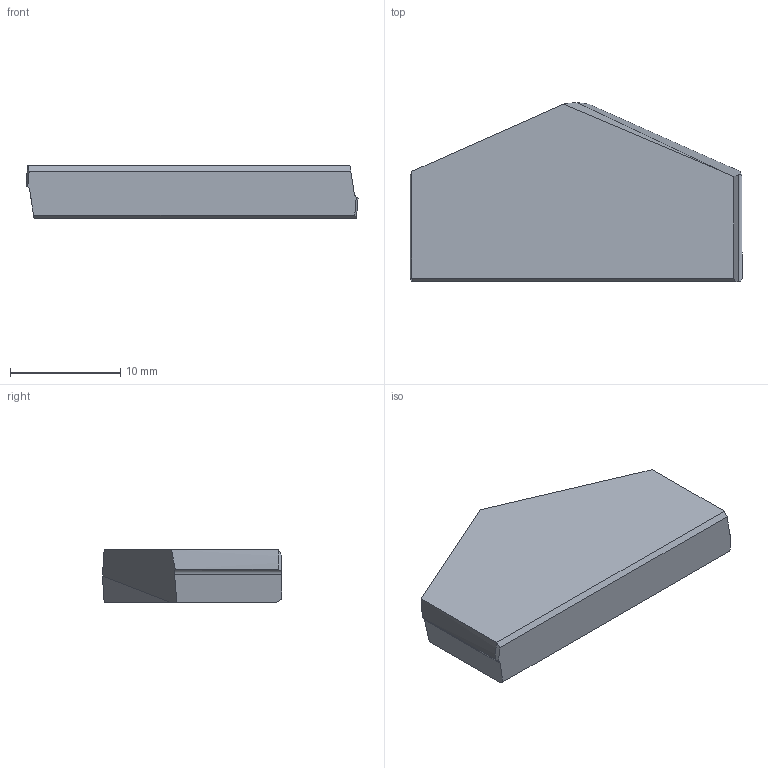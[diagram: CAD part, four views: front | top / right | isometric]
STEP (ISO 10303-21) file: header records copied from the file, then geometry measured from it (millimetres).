
FILE_DESCRIPTION (( 'STEP AP214' ), '1' );
FILE_NAME ('1.3-16.STEP', '2022-06-24T05:48:16', ( '' ), ( '' ), 'SwSTEP 2.0', 'SolidWorks 2018', '' );
FILE_SCHEMA (( 'AUTOMOTIVE_DESIGN' ));
Length unit declared in the file: millimetre
Products named in the file (1): 1.3-16
Bounding box: 30.14 x 16.25 x 4.8 mm (x, y, z)
Volume: 1827 mm3; surface area: 1136.8 mm2
Topology: 1 solids, 1 shells, 17 faces, 44 edges, 29 vertices
Faces by surface type: plane 11, cylinder 4, cone 2
Entity records: 554 total; most frequent: CARTESIAN_POINT 121, ORIENTED_EDGE 88, DIRECTION 76, EDGE_CURVE 44, VERTEX_POINT 29, LINE 28, VECTOR 28, AXIS2_PLACEMENT_3D 24
